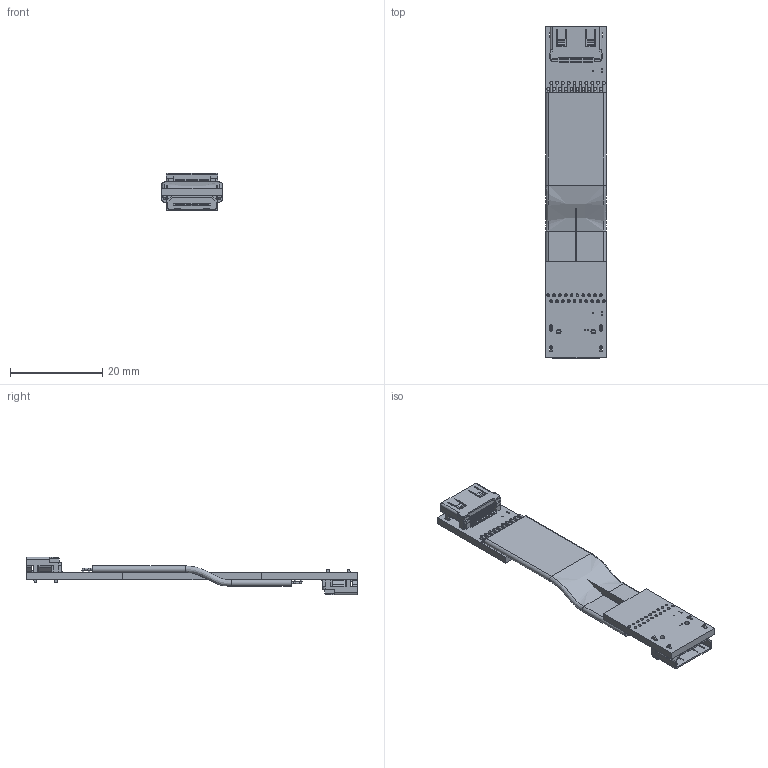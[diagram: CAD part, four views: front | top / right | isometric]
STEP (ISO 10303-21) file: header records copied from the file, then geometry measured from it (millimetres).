
FILE_DESCRIPTION(('Open CASCADE Model'),'2;1');
FILE_NAME('Open CASCADE Shape Model','2022-06-09T21:14:26',('Author'),( 'Open CASCADE'),'Open CASCADE STEP processor 6.8','Open CASCADE 6.8' ,'Unknown');
FILE_SCHEMA(('AUTOMOTIVE_DESIGN { 1 0 10303 214 1 1 1 1 }'));
Length unit declared in the file: millimetre
Products named in the file (47): PCB; Board; Open CASCADE STEP translator 6.8 17.1.1; _1; HC4; Open CASCADE STEP translator 6.8 17.3; Free-Models; cable20-A1A3
Assembly tree (47 placements, depth 3):
  PCB
    Board
      Open CASCADE STEP translator 6.8 17.1.1
    _1
      HC4
    Open CASCADE STEP translator 6.8 17.3
      HC4
    Free-Models
      cable20-A1A3
      cable20-A1A3
      cable20-A1A3
      cable20-A1A3
      cable20-A1A3
      cable20-A1A3
      cable20-A1A3
      cable20-A1A3
      cable20-A1A3
      cable20-A1A3
      cable20-A1A3
      cable20-A1A3
      cable20-A1A3
      cable20-A1A3
      cable20-A1A3
      cable20-A1A3
      cable20-A1A3
      cable20-A1A3
      cable20-A1A3
      cable20-A1A3
      cable20-A1A3
      cable20-A1A3
      cable20-A1A3
      cable20-A1A3
      cable20-A1A3
      cable20-A1A3
      cable20-A1A3
      cable20-A1A3
      cable20-A1A3
      cable20-A1A3
      cable20-A1A3
      cable20-A1A3
      cable20-A1A3
      cable20-A1A3
      cable20-A1A3
      cable20-A1A3
      cable20-A1A3
      cable20-A1A3
      cable20-A1A3
      cable20-A1A3
Bounding box: 13.2 x 72 x 8.1 mm (x, y, z)
Volume: 1787.6 mm3; surface area: 5497.6 mm2
Topology: 85 solids, 85 shells, 1938 faces, 5086 edges, 3274 vertices
Faces by surface type: plane 1212, cylinder 584, bspline 94, torus 40, sphere 8
Full cylindrical faces by diameter (mm): 0.254 x10, 0.4 x96, 0.404 x2, 0.405 x2, 0.6 x40, 1 x4
Entity records: 42945 total; most frequent: CARTESIAN_POINT 9706, ORIENTED_EDGE 5844, DIRECTION 5676, EDGE_CURVE 2922, AXIS2_PLACEMENT_3D 1898, LINE 1880, VECTOR 1880, VERTEX_POINT 1874
